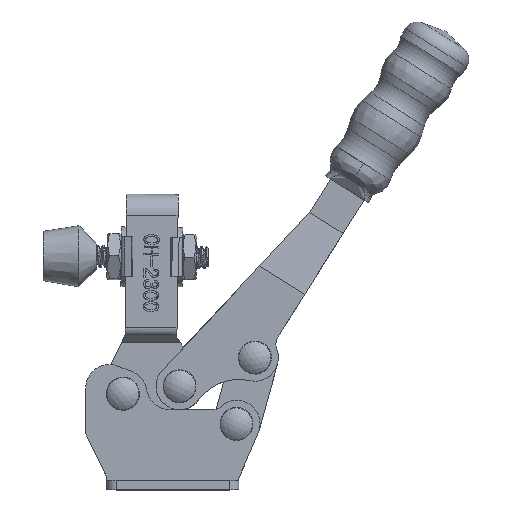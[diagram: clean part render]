
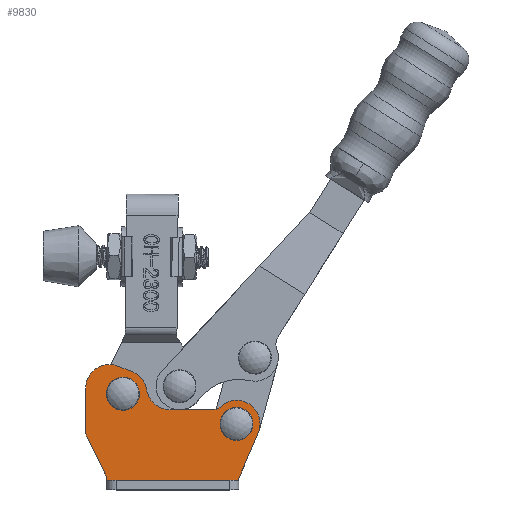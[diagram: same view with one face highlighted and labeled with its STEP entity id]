
A CAD part, top view. The second image highlights one B-rep face of the part: STEP entity #9830.
In plain terms, the highlighted planar face has unit normal (0, 0, 1).
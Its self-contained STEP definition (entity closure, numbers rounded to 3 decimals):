
#809=FACE_BOUND('',#1654,.T.);
#810=FACE_BOUND('',#1655,.T.);
#879=PLANE('',#10598);
#1110=FACE_OUTER_BOUND('',#1653,.T.);
#1653=EDGE_LOOP('',(#6747,#6748,#6749,#6750,#6751,#6752,#6753,#6754,#6755,
#6756,#6757,#6758,#6759,#6760));
#1654=EDGE_LOOP('',(#6761,#6762));
#1655=EDGE_LOOP('',(#6763,#6764));
#2256=LINE('',#13286,#3061);
#2262=LINE('',#13298,#3067);
#2265=LINE('',#13310,#3070);
#2270=LINE('',#13326,#3075);
#2271=LINE('',#13327,#3076);
#2272=LINE('',#13329,#3077);
#2273=LINE('',#13335,#3078);
#2274=LINE('',#13338,#3079);
#3061=VECTOR('',#11250,1000.);
#3067=VECTOR('',#11260,1000.);
#3070=VECTOR('',#11273,1000.);
#3075=VECTOR('',#11288,1000.);
#3076=VECTOR('',#11289,1000.);
#3077=VECTOR('',#11290,1000.);
#3078=VECTOR('',#11295,1000.);
#3079=VECTOR('',#11298,1000.);
#3854=CIRCLE('',#10558,2.);
#3855=CIRCLE('',#10559,2.);
#3858=CIRCLE('',#10563,5.);
#3860=CIRCLE('',#10566,2.);
#3861=CIRCLE('',#10567,2.);
#3877=CIRCLE('',#10592,2.);
#3880=CIRCLE('',#10597,2.);
#3881=CIRCLE('',#10599,5.032);
#3882=CIRCLE('',#10600,5.1);
#3883=CIRCLE('',#10601,5.);
#4103=VERTEX_POINT('',#13216);
#4104=VERTEX_POINT('',#13218);
#4107=VERTEX_POINT('',#13226);
#4108=VERTEX_POINT('',#13228);
#4111=VERTEX_POINT('',#13235);
#4112=VERTEX_POINT('',#13237);
#4129=VERTEX_POINT('',#13283);
#4130=VERTEX_POINT('',#13285);
#4134=VERTEX_POINT('',#13296);
#4137=VERTEX_POINT('',#13305);
#4138=VERTEX_POINT('',#13309);
#4143=VERTEX_POINT('',#13320);
#4144=VERTEX_POINT('',#13322);
#4145=VERTEX_POINT('',#13328);
#4146=VERTEX_POINT('',#13330);
#4147=VERTEX_POINT('',#13332);
#4148=VERTEX_POINT('',#13334);
#4149=VERTEX_POINT('',#13336);
#5140=EDGE_CURVE('',#4104,#4103,#3854,.T.);
#5141=EDGE_CURVE('',#4103,#4104,#3855,.T.);
#5145=EDGE_CURVE('',#4107,#4108,#3858,.T.);
#5149=EDGE_CURVE('',#4112,#4111,#3860,.T.);
#5150=EDGE_CURVE('',#4111,#4112,#3861,.T.);
#5173=EDGE_CURVE('',#4130,#4129,#2256,.T.);
#5179=EDGE_CURVE('',#4129,#4134,#2262,.T.);
#5184=EDGE_CURVE('',#4107,#4137,#3877,.T.);
#5185=EDGE_CURVE('',#4138,#4130,#2265,.T.);
#5191=EDGE_CURVE('',#4144,#4143,#3880,.T.);
#5193=EDGE_CURVE('',#4143,#4138,#2270,.T.);
#5194=EDGE_CURVE('',#4134,#4108,#2271,.T.);
#5195=EDGE_CURVE('',#4137,#4145,#2272,.T.);
#5196=EDGE_CURVE('',#4145,#4146,#3881,.T.);
#5197=EDGE_CURVE('',#4147,#4146,#3882,.T.);
#5198=EDGE_CURVE('',#4147,#4148,#2273,.T.);
#5199=EDGE_CURVE('',#4149,#4148,#3883,.T.);
#5200=EDGE_CURVE('',#4149,#4144,#2274,.T.);
#6747=ORIENTED_EDGE('',*,*,#5191,.T.);
#6748=ORIENTED_EDGE('',*,*,#5193,.T.);
#6749=ORIENTED_EDGE('',*,*,#5185,.T.);
#6750=ORIENTED_EDGE('',*,*,#5173,.T.);
#6751=ORIENTED_EDGE('',*,*,#5179,.T.);
#6752=ORIENTED_EDGE('',*,*,#5194,.T.);
#6753=ORIENTED_EDGE('',*,*,#5145,.F.);
#6754=ORIENTED_EDGE('',*,*,#5184,.T.);
#6755=ORIENTED_EDGE('',*,*,#5195,.T.);
#6756=ORIENTED_EDGE('',*,*,#5196,.T.);
#6757=ORIENTED_EDGE('',*,*,#5197,.F.);
#6758=ORIENTED_EDGE('',*,*,#5198,.T.);
#6759=ORIENTED_EDGE('',*,*,#5199,.F.);
#6760=ORIENTED_EDGE('',*,*,#5200,.T.);
#6761=ORIENTED_EDGE('',*,*,#5149,.T.);
#6762=ORIENTED_EDGE('',*,*,#5150,.T.);
#6763=ORIENTED_EDGE('',*,*,#5140,.T.);
#6764=ORIENTED_EDGE('',*,*,#5141,.T.);
#9830=ADVANCED_FACE('',(#1110,#809,#810),#879,.T.);
#10558=AXIS2_PLACEMENT_3D('',#13219,#11180,#11181);
#10559=AXIS2_PLACEMENT_3D('',#13220,#11182,#11183);
#10563=AXIS2_PLACEMENT_3D('',#13229,#11191,#11192);
#10566=AXIS2_PLACEMENT_3D('',#13238,#11199,#11200);
#10567=AXIS2_PLACEMENT_3D('',#13239,#11201,#11202);
#10592=AXIS2_PLACEMENT_3D('',#13307,#11269,#11270);
#10597=AXIS2_PLACEMENT_3D('',#13323,#11283,#11284);
#10598=AXIS2_PLACEMENT_3D('',#13325,#11286,#11287);
#10599=AXIS2_PLACEMENT_3D('',#13331,#11291,#11292);
#10600=AXIS2_PLACEMENT_3D('',#13333,#11293,#11294);
#10601=AXIS2_PLACEMENT_3D('',#13337,#11296,#11297);
#11180=DIRECTION('center_axis',(0.,0.,-1.));
#11181=DIRECTION('ref_axis',(1.,0.,0.));
#11182=DIRECTION('center_axis',(0.,0.,-1.));
#11183=DIRECTION('ref_axis',(1.,0.,0.));
#11191=DIRECTION('center_axis',(0.,0.,-1.));
#11192=DIRECTION('ref_axis',(1.,0.,0.));
#11199=DIRECTION('center_axis',(0.,0.,-1.));
#11200=DIRECTION('ref_axis',(1.,0.,0.));
#11201=DIRECTION('center_axis',(0.,0.,-1.));
#11202=DIRECTION('ref_axis',(1.,0.,0.));
#11250=DIRECTION('',(1.,0.,0.));
#11260=DIRECTION('',(0.,1.,0.));
#11269=DIRECTION('center_axis',(0.,0.,-1.));
#11270=DIRECTION('ref_axis',(1.,0.,0.));
#11273=DIRECTION('',(0.,-1.,0.));
#11283=DIRECTION('center_axis',(0.,0.,1.));
#11284=DIRECTION('ref_axis',(1.,0.,0.));
#11286=DIRECTION('center_axis',(0.,0.,1.));
#11287=DIRECTION('ref_axis',(1.,0.,0.));
#11288=DIRECTION('',(0.437,-0.9,0.));
#11289=DIRECTION('',(0.392,0.92,0.));
#11290=DIRECTION('',(-1.,0.,0.));
#11291=DIRECTION('center_axis',(0.,0.,-1.));
#11292=DIRECTION('ref_axis',(1.,0.,0.));
#11293=DIRECTION('center_axis',(0.,0.,-1.));
#11294=DIRECTION('ref_axis',(1.,0.,0.));
#11295=DIRECTION('',(-0.936,0.353,0.));
#11296=DIRECTION('center_axis',(0.,0.,-1.));
#11297=DIRECTION('ref_axis',(1.,0.,0.));
#11298=DIRECTION('',(0.,-1.,0.));
#13216=CARTESIAN_POINT('',(-12.616,18.4,8.));
#13218=CARTESIAN_POINT('',(-8.616,18.4,8.));
#13219=CARTESIAN_POINT('Origin',(-10.616,18.4,8.));
#13220=CARTESIAN_POINT('Origin',(-10.616,18.4,8.));
#13226=CARTESIAN_POINT('',(9.985,15.571,8.));
#13228=CARTESIAN_POINT('',(18.216,10.383,8.));
#13229=CARTESIAN_POINT('Origin',(13.484,12.,8.));
#13235=CARTESIAN_POINT('',(11.484,12.,8.));
#13237=CARTESIAN_POINT('',(15.484,12.,8.));
#13238=CARTESIAN_POINT('Origin',(13.484,12.,8.));
#13239=CARTESIAN_POINT('Origin',(13.484,12.,8.));
#13283=CARTESIAN_POINT('',(14.,0.,8.));
#13285=CARTESIAN_POINT('',(-14.,0.,8.));
#13286=CARTESIAN_POINT('',(-16.516,0.,8.));
#13296=CARTESIAN_POINT('',(14.,0.5,8.));
#13298=CARTESIAN_POINT('',(14.,10.26,8.));
#13305=CARTESIAN_POINT('',(8.585,15.,8.));
#13307=CARTESIAN_POINT('Origin',(8.585,17.,8.));
#13309=CARTESIAN_POINT('',(-14.,0.5,8.));
#13310=CARTESIAN_POINT('',(-14.,10.26,8.));
#13320=CARTESIAN_POINT('',(-18.315,9.386,8.));
#13322=CARTESIAN_POINT('',(-18.516,10.26,8.));
#13323=CARTESIAN_POINT('Origin',(-16.516,10.26,8.));
#13325=CARTESIAN_POINT('Origin',(-16.516,10.26,8.));
#13326=CARTESIAN_POINT('',(-14.,0.5,8.));
#13327=CARTESIAN_POINT('',(14.,0.5,8.));
#13328=CARTESIAN_POINT('',(-0.616,15.,8.));
#13329=CARTESIAN_POINT('',(-0.616,15.,8.));
#13330=CARTESIAN_POINT('',(-5.582,19.222,8.));
#13331=CARTESIAN_POINT('Origin',(-0.616,20.032,8.));
#13332=CARTESIAN_POINT('',(-8.817,23.172,8.));
#13333=CARTESIAN_POINT('Origin',(-10.616,18.4,8.));
#13334=CARTESIAN_POINT('',(-11.752,24.279,8.));
#13335=CARTESIAN_POINT('',(-11.752,24.279,8.));
#13336=CARTESIAN_POINT('',(-18.516,19.6,8.));
#13337=CARTESIAN_POINT('Origin',(-13.516,19.6,8.));
#13338=CARTESIAN_POINT('',(-18.516,10.26,8.));
